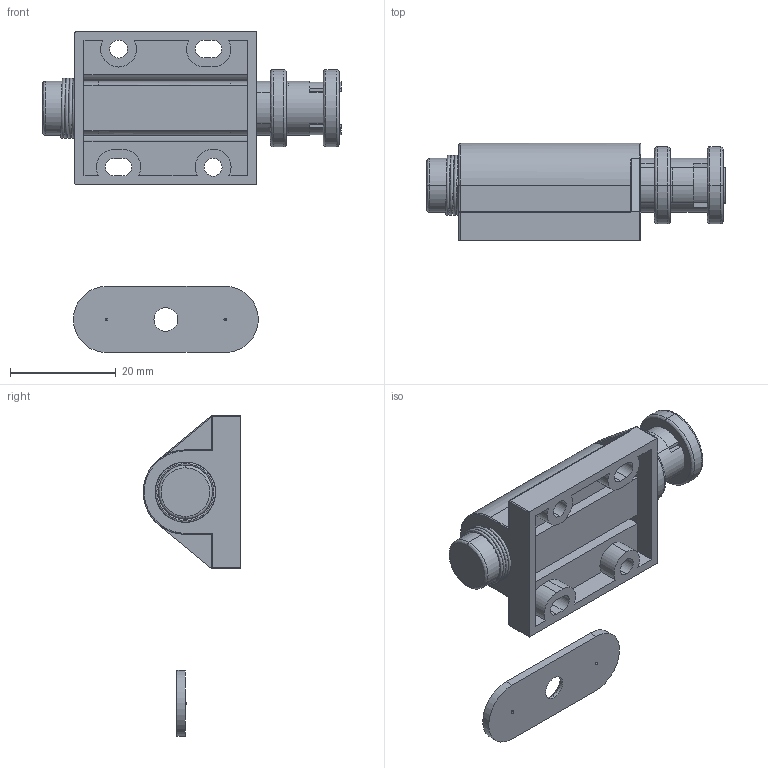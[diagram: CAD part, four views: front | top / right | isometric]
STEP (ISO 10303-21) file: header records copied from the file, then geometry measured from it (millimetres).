
FILE_DESCRIPTION (( 'STEP AP203' ), '1' );
FILE_NAME ('C-713B.STEP', '2015-11-21T14:50:51', ( '' ), ( '' ), 'SwSTEP 2.0', 'SolidWorks 2014', '' );
FILE_SCHEMA (( 'CONFIG_CONTROL_DESIGN' ));
Length unit declared in the file: millimetre
Products named in the file (1): C-713B
Bounding box: 56.5 x 18.5 x 60.75 mm (x, y, z)
Volume: 17286.7 mm3; surface area: 12074.8 mm2
Topology: 11 solids, 11 shells, 169 faces, 392 edges, 248 vertices
Faces by surface type: plane 84, cylinder 57, bspline 26, cone 2
Entity records: 5952 total; most frequent: CARTESIAN_POINT 2110, DIRECTION 785, ORIENTED_EDGE 780, EDGE_CURVE 390, AXIS2_PLACEMENT_3D 287, VERTEX_POINT 248, LINE 211, VECTOR 211
